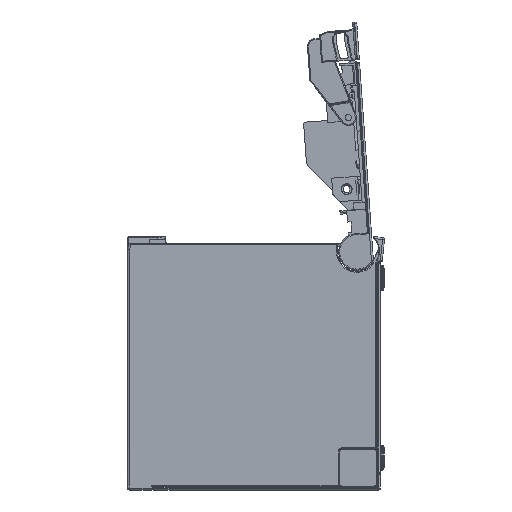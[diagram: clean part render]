
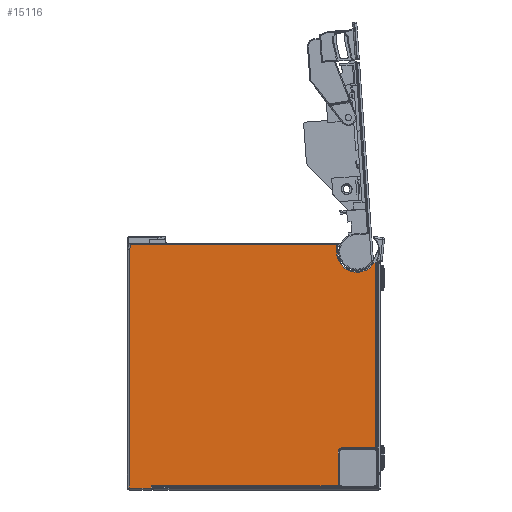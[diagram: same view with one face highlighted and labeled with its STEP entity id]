
A CAD part, left-side view. The second image highlights one B-rep face of the part: STEP entity #15116.
In plain terms, the highlighted planar face has unit normal (-1, 0, 0).
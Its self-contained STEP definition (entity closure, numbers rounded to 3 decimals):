
#637=CARTESIAN_POINT('',(-31.5,21.7,14.452));
#4135=DIRECTION('',(0.,1.,0.));
#4136=VECTOR('',#4135,93.2);
#4137=CARTESIAN_POINT('',(-31.5,-82.5,-103.9));
#4138=LINE('',#4137,#4136);
#4139=DIRECTION('',(0.,-1.,0.));
#4140=VECTOR('',#4139,11.);
#4141=CARTESIAN_POINT('',(-31.5,21.7,-105.));
#4142=LINE('',#4141,#4140);
#4143=DIRECTION('',(0.,0.,1.));
#4144=VECTOR('',#4143,119.452);
#4145=CARTESIAN_POINT('',(-31.5,21.7,-105.));
#4146=LINE('',#4145,#4144);
#4147=DIRECTION('',(0.,0.29,-0.957));
#4148=VECTOR('',#4147,3.081);
#4149=CARTESIAN_POINT('',(-31.5,20.807,17.4));
#4150=LINE('',#4149,#4148);
#4151=DIRECTION('',(0.,1.,0.));
#4152=VECTOR('',#4151,103.007);
#4153=CARTESIAN_POINT('',(-31.5,-82.2,17.4));
#4154=LINE('',#4153,#4152);
#4155=DIRECTION('',(0.,0.,1.));
#4156=VECTOR('',#4155,3.8);
#4157=CARTESIAN_POINT('',(-31.5,-82.2,13.6));
#4158=LINE('',#4157,#4156);
#4159=CARTESIAN_POINT('',(-31.5,-92.5,13.6));
#4160=DIRECTION('',(1.,0.,0.));
#4161=DIRECTION('',(0.,-0.826,-0.563));
#4162=AXIS2_PLACEMENT_3D('',#4159,#4160,#4161);
#4164=DIRECTION('',(0.,1.,0.));
#4165=VECTOR('',#4164,0.988);
#4166=CARTESIAN_POINT('',(-31.5,-102.,7.8));
#4167=LINE('',#4166,#4165);
#4168=DIRECTION('',(0.,0.,-1.));
#4169=VECTOR('',#4168,92.2);
#4170=CARTESIAN_POINT('',(-31.5,-102.,7.8));
#4171=LINE('',#4170,#4169);
#4172=CARTESIAN_POINT('',(-31.5,-101.5,-84.4));
#4173=DIRECTION('',(1.,0.,0.));
#4174=DIRECTION('',(0.,-1.,0.));
#4175=AXIS2_PLACEMENT_3D('',#4172,#4173,#4174);
#4177=DIRECTION('',(0.,1.,0.));
#4178=VECTOR('',#4177,17.);
#4179=CARTESIAN_POINT('',(-31.5,-101.5,-84.9));
#4180=LINE('',#4179,#4178);
#4181=CARTESIAN_POINT('',(-31.5,-84.5,-86.4));
#4182=DIRECTION('',(-1.,0.,0.));
#4183=DIRECTION('',(0.,0.,1.));
#4184=AXIS2_PLACEMENT_3D('',#4181,#4182,#4183);
#4186=DIRECTION('',(0.,0.,-1.));
#4187=VECTOR('',#4186,17.);
#4188=CARTESIAN_POINT('',(-31.5,-83.,-86.4));
#4189=LINE('',#4188,#4187);
#4190=CARTESIAN_POINT('',(-31.5,-82.5,-103.4));
#4191=DIRECTION('',(1.,0.,0.));
#4192=DIRECTION('',(0.,-1.,0.));
#4193=AXIS2_PLACEMENT_3D('',#4190,#4191,#4192);
#4195=DIRECTION('',(0.,0.,1.));
#4196=VECTOR('',#4195,1.1);
#4197=CARTESIAN_POINT('',(-31.5,10.7,-105.));
#4198=LINE('',#4197,#4196);
#9155=CARTESIAN_POINT('',(-31.5,-82.5,-103.9));
#9156=CARTESIAN_POINT('',(-31.5,10.7,-103.9));
#9157=VERTEX_POINT('',#9155);
#9158=VERTEX_POINT('',#9156);
#9165=CARTESIAN_POINT('',(-31.5,10.7,-105.));
#9166=VERTEX_POINT('',#9165);
#9785=CARTESIAN_POINT('',(-31.5,-82.2,17.4));
#9786=CARTESIAN_POINT('',(-31.5,20.807,17.4));
#9787=VERTEX_POINT('',#9785);
#9788=VERTEX_POINT('',#9786);
#9791=CARTESIAN_POINT('',(-31.5,-82.2,13.6));
#9792=VERTEX_POINT('',#9791);
#9795=CARTESIAN_POINT('',(-31.5,-101.012,7.8));
#9796=VERTEX_POINT('',#9795);
#9999=CARTESIAN_POINT('',(-31.5,-102.,7.8));
#10000=VERTEX_POINT('',#9999);
#10003=CARTESIAN_POINT('',(-31.5,-102.,-84.4));
#10004=VERTEX_POINT('',#10003);
#10007=CARTESIAN_POINT('',(-31.5,-101.5,-84.9));
#10008=VERTEX_POINT('',#10007);
#10011=CARTESIAN_POINT('',(-31.5,-84.5,-84.9));
#10012=VERTEX_POINT('',#10011);
#10015=CARTESIAN_POINT('',(-31.5,-83.,-86.4));
#10016=VERTEX_POINT('',#10015);
#10019=CARTESIAN_POINT('',(-31.5,-83.,-103.4));
#10020=VERTEX_POINT('',#10019);
#10055=CARTESIAN_POINT('',(-31.5,21.7,-105.));
#10056=VERTEX_POINT('',#10055);
#10426=VERTEX_POINT('',#637);
#15082=CARTESIAN_POINT('',(-31.5,-102.5,-106.));
#15083=DIRECTION('',(-1.,0.,0.));
#15084=DIRECTION('',(0.,0.,1.));
#15085=AXIS2_PLACEMENT_3D('',#15082,#15083,#15084);
#15086=PLANE('',#15085);
#15087=ORIENTED_EDGE('',*,*,#15072,.T.);
#15089=ORIENTED_EDGE('',*,*,#15088,.F.);
#15091=ORIENTED_EDGE('',*,*,#15090,.F.);
#15092=ORIENTED_EDGE('',*,*,#11426,.T.);
#15094=ORIENTED_EDGE('',*,*,#15093,.F.);
#15096=ORIENTED_EDGE('',*,*,#15095,.F.);
#15098=ORIENTED_EDGE('',*,*,#15097,.F.);
#15100=ORIENTED_EDGE('',*,*,#15099,.F.);
#15102=ORIENTED_EDGE('',*,*,#15101,.F.);
#15104=ORIENTED_EDGE('',*,*,#15103,.T.);
#15106=ORIENTED_EDGE('',*,*,#15105,.T.);
#15108=ORIENTED_EDGE('',*,*,#15107,.T.);
#15110=ORIENTED_EDGE('',*,*,#15109,.T.);
#15112=ORIENTED_EDGE('',*,*,#15111,.T.);
#15113=ORIENTED_EDGE('',*,*,#15060,.T.);
#15114=EDGE_LOOP('',(#15087,#15089,#15091,#15092,#15094,#15096,#15098,#15100,
#15102,#15104,#15106,#15108,#15110,#15112,#15113));
#15115=FACE_OUTER_BOUND('',#15114,.F.);
#4163=CIRCLE('',#4162,10.3);
#4176=CIRCLE('',#4175,0.5);
#4185=CIRCLE('',#4184,1.5);
#4194=CIRCLE('',#4193,0.5);
#11426=EDGE_CURVE('',#10056,#10426,#4146,.T.);
#15060=EDGE_CURVE('',#10020,#9157,#4194,.T.);
#15072=EDGE_CURVE('',#9157,#9158,#4138,.T.);
#15088=EDGE_CURVE('',#9166,#9158,#4198,.T.);
#15090=EDGE_CURVE('',#10056,#9166,#4142,.T.);
#15093=EDGE_CURVE('',#9788,#10426,#4150,.T.);
#15095=EDGE_CURVE('',#9787,#9788,#4154,.T.);
#15097=EDGE_CURVE('',#9792,#9787,#4158,.T.);
#15099=EDGE_CURVE('',#9796,#9792,#4163,.T.);
#15101=EDGE_CURVE('',#10000,#9796,#4167,.T.);
#15103=EDGE_CURVE('',#10000,#10004,#4171,.T.);
#15105=EDGE_CURVE('',#10004,#10008,#4176,.T.);
#15107=EDGE_CURVE('',#10008,#10012,#4180,.T.);
#15109=EDGE_CURVE('',#10012,#10016,#4185,.T.);
#15111=EDGE_CURVE('',#10016,#10020,#4189,.T.);
#15116=ADVANCED_FACE('',(#15115),#15086,.T.);
